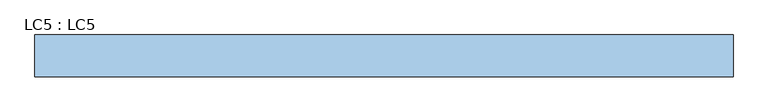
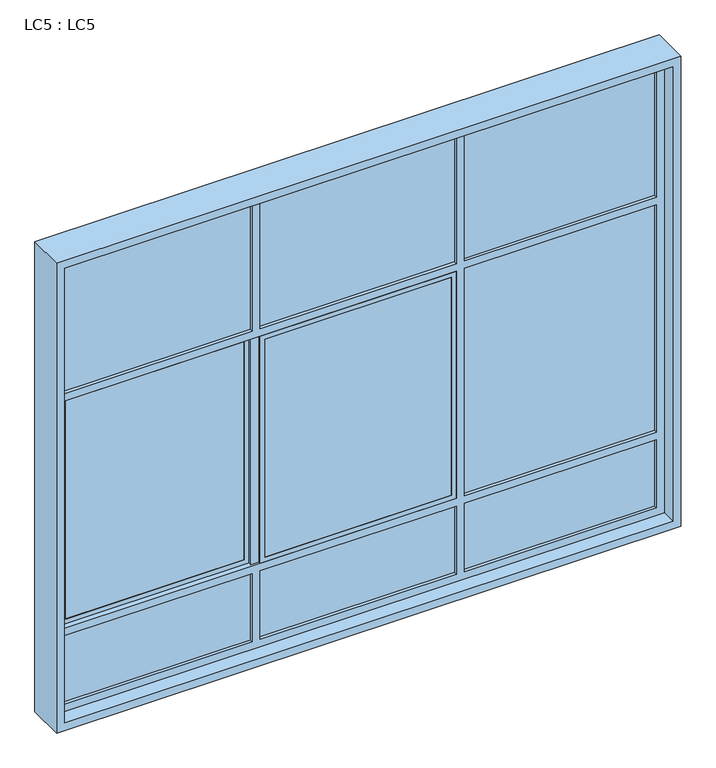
"""IFC4 building model written with IfcOpenShell, lengths in millimetres: window geometry, LC5 : LC5."""

from ifc_helpers import new_model, si_unit, frame, origin, place, context, project, spatial, polyline, outline, extrude, source, transform, mapped, element, save


def lc5_lc5_223d64ff(model_context):
    return source(origin(), model_context, "Body", "SweptSolid", [
        extrude(outline(polyline([(-675.0, 5.0), (-675.0, -5.0), (-1850.0, -5.0), (-1850.0, 5.0), (-675.0, 5.0)])), frame((0.0, 0.0, 2450.0), z_axis=(0.0, 0.0, 1.0), x_axis=(1.0, 0.0, 0.0)), (0.0, 0.0, 1.0), 850.0),
        extrude(outline(polyline([(600.0, 5.0), (600.0, -5.0), (-625.0, -5.0), (-625.0, 5.0), (600.0, 5.0)])), frame((0.0, 0.0, 2450.0), z_axis=(0.0, 0.0, 1.0), x_axis=(1.0, 0.0, 0.0)), (0.0, 0.0, 1.0), 850.0),
        extrude(outline(polyline([(1850.0, 5.0), (1850.0, -5.0), (650.0, -5.0), (650.0, 5.0), (1850.0, 5.0)])), frame((0.0, 0.0, 2450.0), z_axis=(0.0, 0.0, 1.0), x_axis=(1.0, 0.0, 0.0)), (0.0, 0.0, 1.0), 850.0),
        extrude(outline(polyline([(1850.0, 5.0), (1850.0, -5.0), (650.0, -5.0), (650.0, 5.0), (1850.0, 5.0)])), frame((0.0, 0.0, 900.0), z_axis=(0.0, 0.0, 1.0), x_axis=(1.0, 0.0, 0.0)), (0.0, 0.0, 1.0), 1500.0),
        extrude(outline(polyline([(-675.0, 5.0), (-675.0, -5.0), (-1850.0, -5.0), (-1850.0, 5.0), (-675.0, 5.0)])), frame((0.0, 0.0, 400.0), z_axis=(0.0, 0.0, 1.0), x_axis=(1.0, 0.0, 0.0)), (0.0, 0.0, 1.0), 450.0),
        extrude(outline(polyline([(600.0, 5.0), (600.0, -5.0), (-625.0, -5.0), (-625.0, 5.0), (600.0, 5.0)])), frame((0.0, 0.0, 400.0), z_axis=(0.0, 0.0, 1.0), x_axis=(1.0, 0.0, 0.0)), (0.0, 0.0, 1.0), 450.0),
        extrude(outline(polyline([(1850.0, 5.0), (1850.0, -5.0), (650.0, -5.0), (650.0, 5.0), (1850.0, 5.0)])), frame((0.0, 0.0, 400.0), z_axis=(0.0, 0.0, 1.0), x_axis=(1.0, 0.0, 0.0)), (0.0, 0.0, 1.0), 450.0),
        extrude(outline(polyline([(570.0, -12.5), (570.0, -22.5), (-595.0, -22.5), (-595.0, -12.5), (570.0, -12.5)])), frame((0.0, 0.0, 930.0), z_axis=(0.0, 0.0, 1.0), x_axis=(1.0, 0.0, 0.0)), (0.0, 0.0, 1.0), 1440.0),
        extrude(outline(polyline([(-705.0, 22.5), (-705.0, 12.5), (-1820.0, 12.5), (-1820.0, 22.5), (-705.0, 22.5)])), frame((0.0, 0.0, 930.0), z_axis=(0.0, 0.0, 1.0), x_axis=(1.0, 0.0, 0.0)), (0.0, 0.0, 1.0), 1440.0),
        extrude(outline(polyline([(2400.0, 600.0), (2400.0, -625.0), (900.0, -625.0), (900.0, 600.0), (2400.0, 600.0)]), holes=[polyline([(2370.0, 570.0), (930.0, 570.0), (930.0, -595.0), (2370.0, -595.0), (2370.0, 570.0)])]), frame((0.0, -25.0, 0.0), z_axis=(0.0, 1.0, 0.0), x_axis=(0.0, 0.0, 1.0)), (0.0, 0.0, 1.0), 15.0),
        extrude(outline(polyline([(2400.0, -675.0), (2400.0, -1850.0), (900.0, -1850.0), (900.0, -675.0), (2400.0, -675.0)]), holes=[polyline([(2370.0, -705.0), (930.0, -705.0), (930.0, -1820.0), (2370.0, -1820.0), (2370.0, -705.0)])]), frame((0.0, 10.0, 0.0), z_axis=(0.0, 1.0, 0.0), x_axis=(0.0, 0.0, 1.0)), (0.0, 0.0, 1.0), 15.0),
        extrude(outline(polyline([(-625.0, 10.0), (-625.0, -10.0), (-675.0, -10.0), (-675.0, 10.0), (-625.0, 10.0)])), frame((0.0, 0.0, 900.0), z_axis=(0.0, 0.0, 1.0), x_axis=(1.0, 0.0, 0.0)), (0.0, 0.0, 1.0), 1500.0),
        extrude(outline(polyline([(3350.0, 1900.0), (3350.0, -1900.0), (350.0, -1900.0), (350.0, 1900.0), (3350.0, 1900.0)]), holes=[polyline([(3300.0, -675.0), (2450.0, -675.0), (2450.0, -1850.0), (3300.0, -1850.0), (3300.0, -675.0)]), polyline([(2450.0, -625.0), (3300.0, -625.0), (3300.0, 600.0), (2450.0, 600.0), (2450.0, -625.0)]), polyline([(3300.0, 1850.0), (2450.0, 1850.0), (2450.0, 650.0), (3300.0, 650.0), (3300.0, 1850.0)]), polyline([(2400.0, 600.0), (900.0, 600.0), (900.0, -1850.0), (2400.0, -1850.0), (2400.0, 600.0)]), polyline([(2400.0, 1850.0), (900.0, 1850.0), (900.0, 650.0), (2400.0, 650.0), (2400.0, 1850.0)]), polyline([(850.0, 1850.0), (400.0, 1850.0), (400.0, 650.0), (850.0, 650.0), (850.0, 1850.0)]), polyline([(400.0, 600.0), (400.0, -625.0), (850.0, -625.0), (850.0, 600.0), (400.0, 600.0)]), polyline([(850.0, -1850.0), (850.0, -675.0), (400.0, -675.0), (400.0, -1850.0), (850.0, -1850.0)])]), frame((0.0, -25.0, 0.0), z_axis=(0.0, 1.0, 0.0), x_axis=(0.0, 0.0, 1.0)), (0.0, 0.0, 1.0), 50.0),
        extrude(outline(polyline([(3400.0, 1950.0), (3400.0, -1950.0), (300.0, -1950.0), (300.0, 1950.0), (3400.0, 1950.0)]), holes=[polyline([(3350.0, 1900.0), (350.0, 1900.0), (350.0, -1900.0), (3350.0, -1900.0), (3350.0, 1900.0)])]), frame((0.0, -117.0, 0.0), z_axis=(0.0, 1.0, 0.0), x_axis=(0.0, 0.0, 1.0)), (0.0, 0.0, 1.0), 234.0),
    ])


if __name__ == "__main__":
    model = new_model("IFC4")
    model_context = context("Model", 3, world=origin())
    ifc_project = project(units=[si_unit("LENGTHUNIT", "METRE", prefix="MILLI")], contexts=[model_context])
    site = spatial("IfcSite", under=ifc_project)
    building = spatial("IfcBuilding", under=site)
    placement = place(None, origin())
    lc5_lc5_shape = lc5_lc5_223d64ff(model_context)
    element("IfcWindow", 1, ObjectType="LC5 : LC5", at=placement, inside=building, context=model_context, shape_type="MappedRepresentation", body=[
        mapped(lc5_lc5_shape, transform((0.0, 0.0, 0.0), x_axis=(1.0, 0.0, 0.0), y_axis=(0.0, 1.0, 0.0), z_axis=(0.0, 0.0, 1.0))),
    ])
    save(model, "model.ifc")
